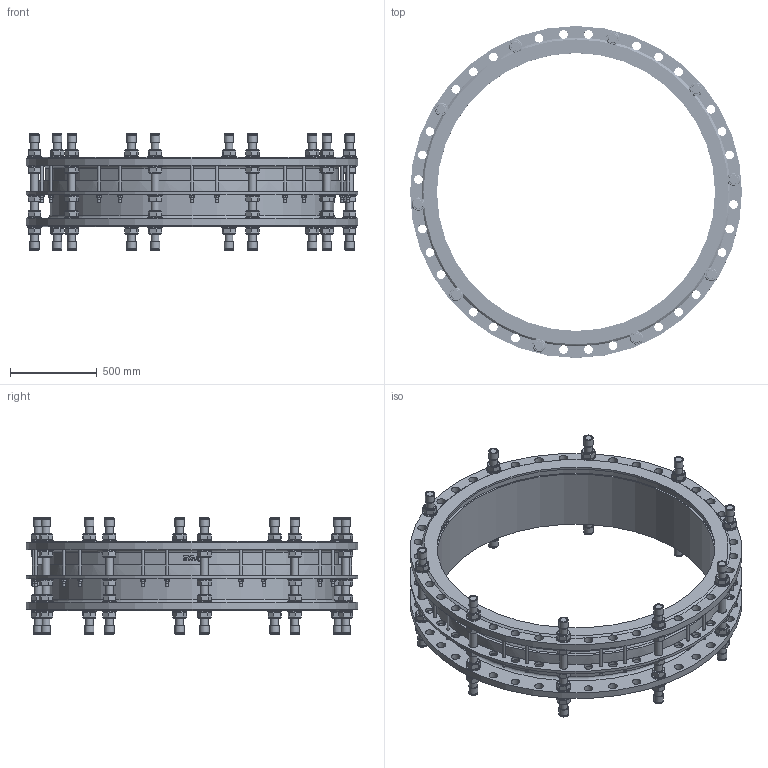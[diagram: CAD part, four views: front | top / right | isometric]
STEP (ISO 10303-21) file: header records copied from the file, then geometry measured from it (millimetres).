
FILE_DESCRIPTION(('STEP AP242'), '1');
FILE_NAME('Ìîíòàæíàÿ âñòàâêà', '', ('UNSPECIFIED'), ('UNSPECIFIED'), 'C3D Converter', 'C3D Toolkit', '');
FILE_SCHEMA(('AP242_MANAGED_MODEL_BASED_3D_ENGINEERING_MIM_LF { 1 0 10303 442 1 1 4 }'));
Length unit declared in the file: millimetre
Products named in the file (13): ШМ.М16.310; ШМ.М16.206
Assembly tree (214 placements, depth 2):
  (unnamed)
    (unnamed)
    (unnamed)
    (unnamed)
    (unnamed)
    (unnamed)  x50
    (unnamed)  x50
    ШМ.М16.310  x10
    (unnamed)  x20
    (unnamed)  x20
    (unnamed)  x20
    ШМ.М16.206  x20
    (unnamed)  x20
Bounding box: 1910 x 1910 x 669 mm (x, y, z)
Volume: 145403014.9 mm3; surface area: 14976085.8 mm2
Topology: 218 solids, 218 shells, 1848 faces, 4109 edges, 2644 vertices
Faces by surface type: plane 947, cylinder 502, cone 346, torus 42, extrusion 11
Full cylindrical faces by diameter (mm): 16 x80, 17 x20, 18 x20, 19.2 x20, 30 x20, 33.221 x1, 45 x80, 46 x50, 50 x120, 54 x20, 82 x50, 1600 x2, 1634 x2, 1651 x2, 1685 x1, 1702 x1, 1736 x1, 1770 x1, 1910 x3
Entity records: 27984 total; most frequent: CARTESIAN_POINT 12416, DIRECTION 2446, ORIENTED_EDGE 1762, AXIS2_PLACEMENT_3D 1186, EDGE_CURVE 881, EDGE_LOOP 787, VERTEX_POINT 708, CIRCLE 658
